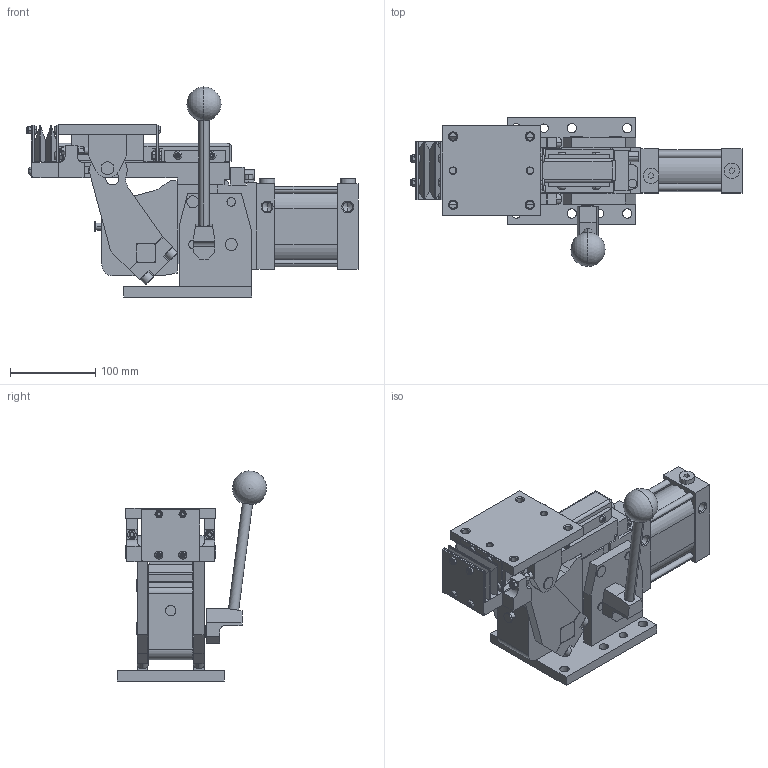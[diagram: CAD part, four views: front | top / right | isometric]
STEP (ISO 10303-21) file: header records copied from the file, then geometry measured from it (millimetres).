
FILE_DESCRIPTION (( 'STEP AP214' ), '1' );
FILE_NAME ('slcpm63_90_xx_la_f_s3.STEP', '2019-09-19T12:58:54', ( '' ), ( '' ), 'SwSTEP 2.0', 'SolidWorks 2019', '' );
FILE_SCHEMA (( 'AUTOMOTIVE_DESIGN' ));
Length unit declared in the file: millimetre
Products named in the file (11): piastra_superiore_slcp63; leva_slcp63; staffa_reazione_sinistra_slcp63_sx; tappo cil G1_4 din908_rondella rame; soffietto_slcp63; slcpm63_90_xx_x_x; slcpm63_90_xx_la_f_s3; leva_slcpm63; staffa_reazione_destra_slcp63_dx; blocchetto_VEP_0; riparo_binario_post_slcp63
Assembly tree (11 placements, depth 2):
  slcpm63_90_xx_la_f_s3
    slcpm63_90_xx_x_x
    piastra_superiore_slcp63
    leva_slcp63
    blocchetto_VEP_0
    staffa_reazione_destra_slcp63_dx
    staffa_reazione_sinistra_slcp63_sx
    tappo cil G1_4 din908_rondella rame  x2
    leva_slcpm63
    riparo_binario_post_slcp63
    soffietto_slcp63
Bounding box: 389 x 174.8 x 246.1 mm (x, y, z)
Volume: 2885949 mm3; surface area: 437023.6 mm2
Topology: 50 solids, 64 shells, 1827 faces, 4429 edges, 2717 vertices
Faces by surface type: plane 825, cone 492, cylinder 450, torus 58, sphere 2
Entity records: 66148 total; most frequent: CARTESIAN_POINT 10767, DIRECTION 9122, ORIENTED_EDGE 8588, EDGE_CURVE 4294, AXIS2_PLACEMENT_3D 3349, VERTEX_POINT 2694, VECTOR 2424, LINE 2424
